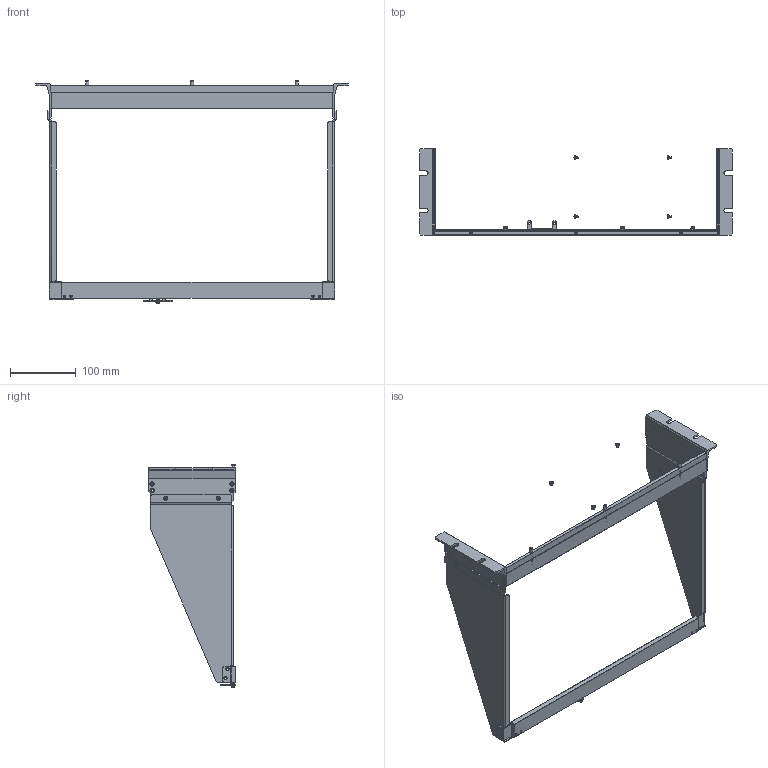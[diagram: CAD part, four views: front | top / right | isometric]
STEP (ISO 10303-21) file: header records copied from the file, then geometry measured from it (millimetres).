
FILE_DESCRIPTION((''),'2;1');
FILE_NAME('GRA-410-E_ASM','2020-03-12T09:07:27',('jeffery_kuo'),(''),'CREO PARAMETRIC BY PTC INC, 2019080','CREO PARAMETRIC BY PTC INC, 2019080','');
FILE_SCHEMA(('CONFIG_CONTROL_DESIGN'));
Length unit declared in the file: millimetre
Products named in the file (25): 62RA-410HP101_23; 62RA-410HP2A1_28; 62RA-410HP3A1_10; 62RA-410HPAA1_15; 62RA-410HP5B1_13; 62RA-410HP5B1-HP_8; 62RA-410HP5B1_ASM_11_ASM; 62RA-410HP4A1_9; 62RA-410HP4A1-HP_8; 62RA-410HP4A1_ASM_5_ASM; 59CA-04017NS1_3; 5320-00403001-SR-3S-1_1_1; 5320-00403001-SR-3S-1_1_2; 5320-00403001-SR-3S-1_1_ASM; 5320-00403001-SR-3S-2_1; 5320-00403001-SR-3S_ASM_1_ASM; PMS-W-3X6_9; FMS-3X8_8; FMS-3X5_8; IMS-3X6_9; 62RA-410HP9A1_6; 62RA-410HP9A1_ASM_3_ASM; EIA-RACK-3U_ASM_ASM_37_ASM; EIA-PSW-RACK_ASM_ASM_105_ASM; GRA-410-E_ASM
Assembly tree (42 placements, depth 6):
  GRA-410-E_ASM
    EIA-PSW-RACK_ASM_ASM_105_ASM
      EIA-RACK-3U_ASM_ASM_37_ASM
        62RA-410HP101_23
        62RA-410HP2A1_28
        62RA-410HP3A1_10
        62RA-410HPAA1_15  x2
        62RA-410HP5B1_ASM_11_ASM
          62RA-410HP5B1_13
          62RA-410HP5B1-HP_8
        62RA-410HP4A1_ASM_5_ASM
          62RA-410HP4A1_9
          62RA-410HP4A1-HP_8
        59CA-04017NS1_3  x3
        5320-00403001-SR-3S_ASM_1_ASM  x4
          5320-00403001-SR-3S-1_1_ASM
            5320-00403001-SR-3S-1_1_1
            5320-00403001-SR-3S-1_1_2
          5320-00403001-SR-3S-2_1
        PMS-W-3X6_9  x4
        FMS-3X8_8  x4
        FMS-3X5_8  x4
        IMS-3X6_9  x4
        62RA-410HP9A1_ASM_3_ASM
          62RA-410HP9A1_6
Bounding box: 477.6 x 132 x 340.54 mm (x, y, z)
Volume: 343625.8 mm3; surface area: 231105.9 mm2
Topology: 41 solids, 41 shells, 1217 faces, 3210 edges, 2065 vertices
Faces by surface type: plane 569, cylinder 394, cone 170, sphere 38, bspline 24, torus 22
Entity records: 22723 total; most frequent: CARTESIAN_POINT 5430, DIRECTION 3783, ORIENTED_EDGE 3384, EDGE_CURVE 1692, AXIS2_PLACEMENT_3D 1411, VERTEX_POINT 1091, VECTOR 961, LINE 961
